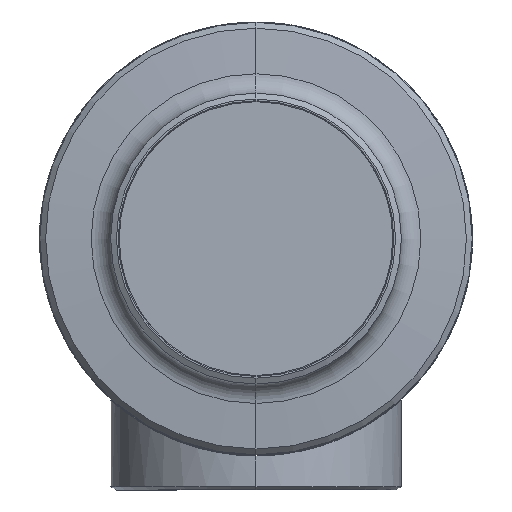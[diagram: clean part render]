
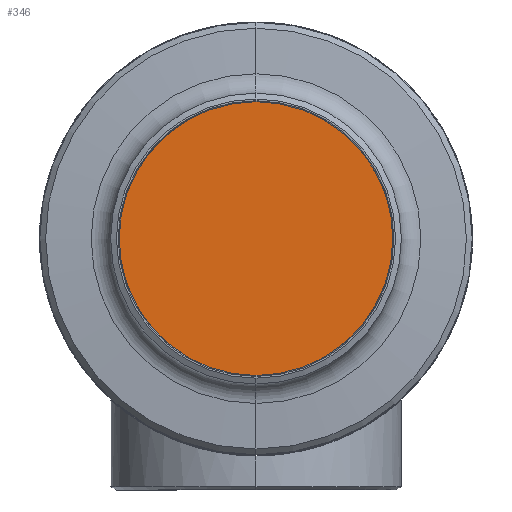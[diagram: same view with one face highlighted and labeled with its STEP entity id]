
A CAD part, front view. The second image highlights one B-rep face of the part: STEP entity #346.
In plain terms, the highlighted planar face has unit normal (0, -1, 0).
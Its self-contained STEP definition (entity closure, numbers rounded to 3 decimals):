
#11 = EDGE_CURVE ( 'NONE', #6945, #6923, #647, .T. ) ;
#240 = ORIENTED_EDGE ( 'NONE', *, *, #11, .T. ) ;
#280 = ORIENTED_EDGE ( 'NONE', *, *, #453, .T. ) ;
#323 = EDGE_LOOP ( 'NONE', ( #280, #240 ) ) ;
#346 = ADVANCED_FACE ( 'NONE', ( #4832 ), #4833, .T. ) ;
#453 = EDGE_CURVE ( 'NONE', #6923, #6945, #5853, .T. ) ;
#647 = CIRCLE ( 'NONE', #648, 148. ) ;
#648 = AXIS2_PLACEMENT_3D ( 'NONE', #649, #650, #651 ) ;
#649 = CARTESIAN_POINT ( 'NONE',  ( 0., -54., 0. ) ) ;
#650 = DIRECTION ( 'NONE',  ( 0., -1., 0. ) ) ;
#651 = DIRECTION ( 'NONE',  ( 0., 0., -1. ) ) ;
#4832 = FACE_OUTER_BOUND ( 'NONE', #323, .T. ) ;
#4833 = PLANE ( 'NONE',  #4834 ) ;
#4834 = AXIS2_PLACEMENT_3D ( 'NONE', #4835, #4836, #4837 ) ;
#4835 = CARTESIAN_POINT ( 'NONE',  ( 0., -54., 0. ) ) ;
#4836 = DIRECTION ( 'NONE',  ( 0., -1., 0. ) ) ;
#4837 = DIRECTION ( 'NONE',  ( 0., 0., -1. ) ) ;
#5109 = CARTESIAN_POINT ( 'NONE',  ( 0., -54., 148. ) ) ;
#5475 = CARTESIAN_POINT ( 'NONE',  ( 0., -54., -148. ) ) ;
#5853 = CIRCLE ( 'NONE', #5855, 148. ) ;
#5855 = AXIS2_PLACEMENT_3D ( 'NONE', #5856, #5857, #5858 ) ;
#5856 = CARTESIAN_POINT ( 'NONE',  ( 0., -54., 0. ) ) ;
#5857 = DIRECTION ( 'NONE',  ( 0., -1., 0. ) ) ;
#5858 = DIRECTION ( 'NONE',  ( 0., 0., -1. ) ) ;
#6923 = VERTEX_POINT ( 'NONE', #5109 ) ;
#6945 = VERTEX_POINT ( 'NONE', #5475 ) ;
